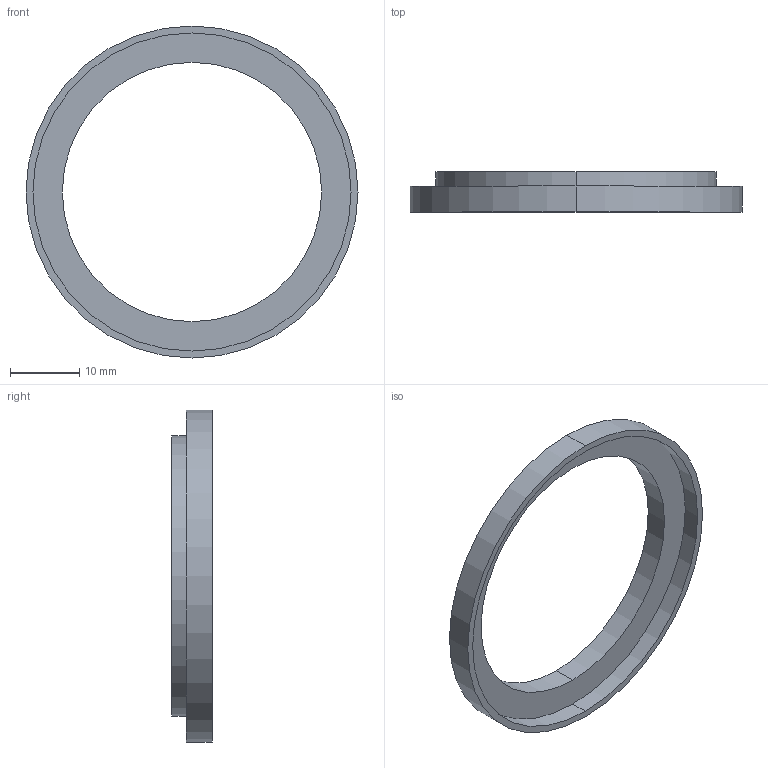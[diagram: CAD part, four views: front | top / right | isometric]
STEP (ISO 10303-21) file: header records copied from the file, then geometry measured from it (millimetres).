
FILE_DESCRIPTION (( 'STEP AP214' ), '1' );
FILE_NAME ('SU40.5-46.STEP', '2019-04-03T14:57:08', ( '' ), ( '' ), 'SwSTEP 2.0', 'SolidWorks 2019', '' );
FILE_SCHEMA (( 'AUTOMOTIVE_DESIGN' ));
Length unit declared in the file: millimetre
Products named in the file (1): SU40.5-46
Bounding box: 48 x 5.85 x 48 mm (x, y, z)
Volume: 1619.7 mm3; surface area: 2999.6 mm2
Topology: 1 solids, 1 shells, 12 faces, 24 edges, 16 vertices
Faces by surface type: cylinder 8, plane 4
Entity records: 362 total; most frequent: DIRECTION 66, CARTESIAN_POINT 53, ORIENTED_EDGE 48, AXIS2_PLACEMENT_3D 29, EDGE_CURVE 24, EDGE_LOOP 16, CIRCLE 16, VERTEX_POINT 16
